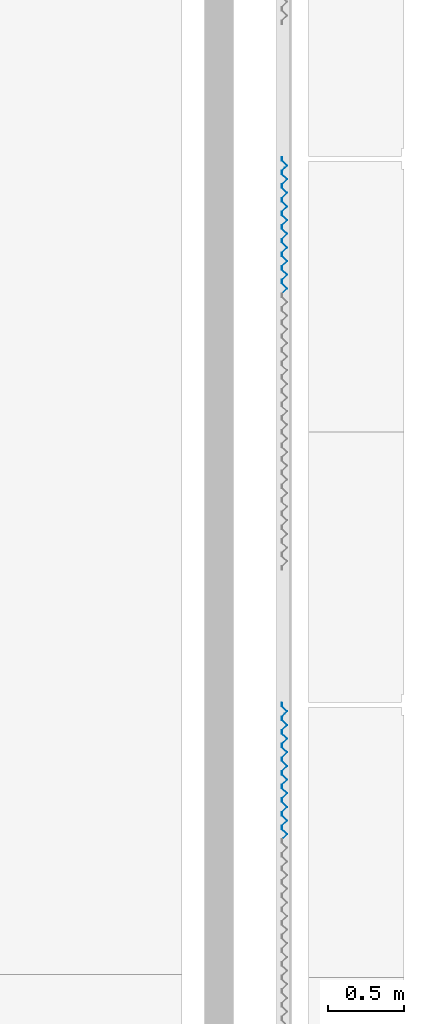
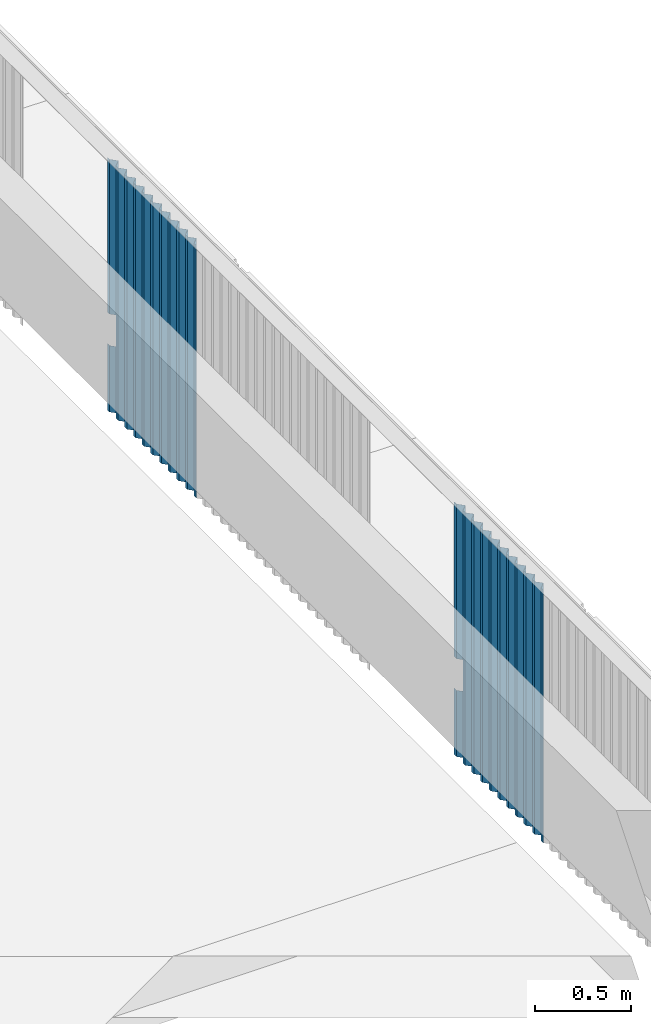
# One storey, part 28 of 37: 2 walls.
"""IFC4X3_ADD2 building model written with IfcOpenShell, lengths in millimetres."""

from ifc_helpers import new_model, si_unit, direction, frame, origin_with_axes, place, context, subcontext, project, spatial, polygons, element, save


model = new_model("IFC4X3_ADD2")

# Units and contexts
model_context = context("Model", 3, precision=1e-05, world=origin_with_axes(), true_north=direction((0.0, 1.0)))
body_context = subcontext(model_context, "Body", "Model", "MODEL_VIEW")
ifc_project = project(units=[si_unit("LENGTHUNIT", "METRE", prefix="MILLI"), si_unit("AREAUNIT", "SQUARE_METRE"), si_unit("VOLUMEUNIT", "CUBIC_METRE"), si_unit("PLANEANGLEUNIT", "RADIAN"), si_unit("TIMEUNIT", "SECOND"), si_unit("MASSUNIT", "GRAM")], contexts=[model_context])

# Site, building, storey
site_placement = place(None, origin_with_axes())
site = spatial("IfcSite", under=ifc_project, at=site_placement, Name="Site", CompositionType="ELEMENT")
building_placement = place(site_placement, origin_with_axes())
building = spatial("IfcBuilding", under=site, at=building_placement, Name="IFC Building Story")
storey_placement = place(building_placement, frame((0.0, 0.0, 14400.0), z_axis=(0.0, 0.0, 1.0), x_axis=(1.0, 0.0, 0.0)))
storey = spatial("IfcBuildingStorey", under=building, at=storey_placement, Name="040", Elevation=14400.0)

# Walls
wall_1_placement = place(storey_placement, frame((0.0, 0.0, -14400.0), z_axis=(0.0, 0.0, 1.0), x_axis=(1.0, 0.0, 0.0)))
element("IfcWall", 1, at=wall_1_placement, inside=storey, Name="BB_07.10_Gevelbekleding_PuntProfiel, 900 mm, console rechts_GMO:900 x 1600 mm", ObjectType="BB_07.10_Gevelbekleding_PuntProfiel, 900 mm, console rechts_GMO:900 x 1600 mm", PredefinedType="NOTDEFINED", context=body_context, shape_type="Tessellation", body=[
    polygons([(435.0000000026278, 21820.00000000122, 14060.0), (433.5857864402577, 21820.00000000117, 14060.0), (448.5857864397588, 21835.0000000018, 14060.0), (415.0000000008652, 21868.58578643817, 14060.0), (415.0000000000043, 21891.41421356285, 14060.0), (416.000000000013, 21891.00000000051, 14060.0), (416.0000000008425, 21869.00000000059, 14060.0), (450.0000000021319, 21835.00000000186, 14060.0), (435.0000000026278, 21820.00000000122, 13860.0), (433.5857864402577, 21820.00000000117, 13860.0), (450.0000000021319, 21835.00000000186, 13860.0), (416.0000000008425, 21869.00000000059, 13860.0), (416.0000000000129, 21891.00000000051, 13860.0), (415.0000000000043, 21891.41421356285, 13860.0), (415.0000000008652, 21868.58578643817, 13860.0), (448.5857864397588, 21835.0000000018, 13860.0), (416.0000000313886, 21059.00000000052, 15040.0), (416.000000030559, 21081.00000000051, 15040.0), (450.000000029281, 21115.00000000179, 15040.0), (416.0000000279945, 21149.00000000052, 15040.0), (416.0000000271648, 21171.00000000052, 15040.0), (450.0000000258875, 21205.0000000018, 15040.0), (416.0000000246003, 21239.00000000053, 15040.0), (416.0000000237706, 21261.00000000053, 15040.0), (450.0000000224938, 21295.00000000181, 15040.0), (416.0000000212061, 21329.00000000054, 15040.0), (416.0000000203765, 21351.00000000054, 15040.0), (450.0000000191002, 21385.00000000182, 15040.0), (416.0000000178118, 21419.00000000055, 15040.0), (416.0000000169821, 21441.00000000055, 15040.0), (450.0000000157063, 21475.00000000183, 15040.0), (416.0000000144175, 21509.00000000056, 15040.0), (416.0000000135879, 21531.00000000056, 15040.0), (450.0000000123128, 21565.00000000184, 15040.0), (416.0000000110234, 21599.00000000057, 15040.0), (416.0000000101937, 21621.00000000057, 15040.0), (450.0000000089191, 21655.00000000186, 15040.0), (416.0000000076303, 21689.00000000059, 15040.0), (416.0000000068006, 21711.00000000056, 15040.0), (450.0000000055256, 21745.00000000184, 15040.0), (416.0000000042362, 21779.00000000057, 15040.0), (416.0000000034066, 21801.00000000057, 15040.0), (450.000000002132, 21835.00000000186, 15040.0), (416.0000000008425, 21869.00000000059, 15040.0), (416.000000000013, 21891.00000000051, 15040.0), (415.0000000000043, 21891.41421356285, 15040.0), (415.0000000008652, 21868.58578643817, 15040.0), (448.5857864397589, 21835.0000000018, 15040.0), (415.0000000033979, 21801.41421356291, 15040.0), (415.0000000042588, 21778.58578643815, 15040.0), (448.5857864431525, 21745.00000000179, 15040.0), (415.0000000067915, 21711.4142135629, 15040.0), (415.0000000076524, 21688.58578643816, 15040.0), (448.5857864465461, 21655.0000000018, 15040.0), (415.0000000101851, 21621.41421356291, 15040.0), (415.000000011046, 21598.58578643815, 15040.0), (448.5857864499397, 21565.00000000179, 15040.0), (415.0000000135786, 21531.41421356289, 15040.0), (415.0000000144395, 21508.58578643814, 15040.0), (448.5857864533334, 21475.00000000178, 15040.0), (415.0000000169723, 21441.41421356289, 15040.0), (415.0000000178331, 21418.58578643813, 15040.0), (448.5857864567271, 21385.00000000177, 15040.0), (415.000000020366, 21351.41421356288, 15040.0), (415.0000000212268, 21328.58578643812, 15040.0), (448.5857864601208, 21295.00000000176, 15040.0), (415.0000000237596, 21261.41421356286, 15040.0), (415.0000000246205, 21238.58578643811, 15040.0), (448.5857864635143, 21205.00000000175, 15040.0), (415.0000000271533, 21171.41421356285, 15040.0), (415.000000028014, 21148.5857864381, 15040.0), (448.585786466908, 21115.00000000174, 15040.0), (415.0000000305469, 21081.41421356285, 15040.0), (415.0000000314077, 21058.5857864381, 15040.0), (448.5857864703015, 21025.00000000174, 15040.0), (415.0000000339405, 20991.41421356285, 15040.0), (415.0000000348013, 20968.5857864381, 15040.0), (416.0000000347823, 20969.00000000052, 15040.0), (416.0000000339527, 20991.00000000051, 15040.0), (450.0000000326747, 21025.00000000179, 15040.0), (416.0000000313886, 21059.00000000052, 13440.0), (450.0000000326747, 21025.00000000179, 13440.0), (416.0000000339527, 20991.00000000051, 13440.0), (416.0000000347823, 20969.00000000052, 13440.0), (415.0000000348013, 20968.5857864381, 13440.0), (415.0000000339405, 20991.41421356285, 13440.0), (448.5857864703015, 21025.00000000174, 13440.0), (415.0000000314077, 21058.5857864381, 13440.0), (415.0000000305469, 21081.41421356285, 13440.0), (448.585786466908, 21115.00000000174, 13440.0), (415.000000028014, 21148.5857864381, 13440.0), (415.0000000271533, 21171.41421356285, 13440.0), (448.5857864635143, 21205.00000000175, 13440.0), (415.0000000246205, 21238.58578643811, 13440.0), (415.0000000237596, 21261.41421356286, 13440.0), (448.5857864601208, 21295.00000000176, 13440.0), (415.0000000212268, 21328.58578643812, 13440.0), (415.000000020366, 21351.41421356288, 13440.0), (448.5857864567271, 21385.00000000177, 13440.0), (415.0000000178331, 21418.58578643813, 13440.0), (415.0000000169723, 21441.41421356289, 13440.0), (448.5857864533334, 21475.00000000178, 13440.0), (415.0000000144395, 21508.58578643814, 13440.0), (415.0000000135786, 21531.41421356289, 13440.0), (448.5857864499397, 21565.00000000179, 13440.0), (415.000000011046, 21598.58578643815, 13440.0), (415.0000000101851, 21621.41421356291, 13440.0), (448.5857864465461, 21655.0000000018, 13440.0), (415.0000000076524, 21688.58578643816, 13440.0), (415.0000000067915, 21711.4142135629, 13440.0), (448.5857864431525, 21745.00000000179, 13440.0), (415.0000000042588, 21778.58578643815, 13440.0), (415.0000000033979, 21801.41421356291, 13440.0), (448.5857864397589, 21835.0000000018, 13440.0), (415.0000000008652, 21868.58578643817, 13440.0), (415.0000000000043, 21891.41421356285, 13440.0), (416.000000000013, 21891.00000000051, 13440.0), (416.0000000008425, 21869.00000000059, 13440.0), (450.000000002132, 21835.00000000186, 13440.0), (416.0000000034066, 21801.00000000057, 13440.0), (416.0000000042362, 21779.00000000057, 13440.0), (450.0000000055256, 21745.00000000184, 13440.0), (416.0000000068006, 21711.00000000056, 13440.0), (416.0000000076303, 21689.00000000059, 13440.0), (450.0000000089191, 21655.00000000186, 13440.0), (416.0000000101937, 21621.00000000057, 13440.0), (416.0000000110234, 21599.00000000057, 13440.0), (450.0000000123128, 21565.00000000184, 13440.0), (416.0000000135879, 21531.00000000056, 13440.0), (416.0000000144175, 21509.00000000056, 13440.0), (450.0000000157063, 21475.00000000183, 13440.0), (416.0000000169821, 21441.00000000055, 13440.0), (416.0000000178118, 21419.00000000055, 13440.0), (450.0000000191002, 21385.00000000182, 13440.0), (416.0000000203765, 21351.00000000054, 13440.0), (416.0000000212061, 21329.00000000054, 13440.0), (450.0000000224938, 21295.00000000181, 13440.0), (416.0000000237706, 21261.00000000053, 13440.0), (416.0000000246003, 21239.00000000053, 13440.0), (450.0000000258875, 21205.0000000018, 13440.0), (416.0000000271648, 21171.00000000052, 13440.0), (416.0000000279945, 21149.00000000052, 13440.0), (450.000000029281, 21115.00000000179, 13440.0), (416.000000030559, 21081.00000000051, 13440.0)], [[[7, 8, 3]], [[7, 3, 4]], [[4, 5, 6]], [[4, 6, 7]], [[8, 1, 2]], [[8, 2, 3]], [[2, 1, 9, 10]], [[12, 13, 14]], [[12, 14, 15]], [[16, 10, 9]], [[16, 9, 11]], [[11, 12, 15]], [[11, 15, 16]], [[44, 45, 46]], [[44, 46, 47]], [[48, 49, 42]], [[48, 42, 43]], [[43, 44, 47]], [[43, 47, 48]], [[49, 50, 41]], [[49, 41, 42]], [[51, 52, 39]], [[51, 39, 40]], [[40, 41, 50]], [[40, 50, 51]], [[52, 53, 38]], [[52, 38, 39]], [[54, 55, 36]], [[54, 36, 37]], [[37, 38, 53]], [[37, 53, 54]], [[55, 56, 35]], [[55, 35, 36]], [[57, 58, 33]], [[57, 33, 34]], [[34, 35, 56]], [[34, 56, 57]], [[58, 59, 32]], [[58, 32, 33]], [[60, 61, 30]], [[60, 30, 31]], [[31, 32, 59]], [[31, 59, 60]], [[61, 62, 29]], [[61, 29, 30]], [[63, 64, 27]], [[63, 27, 28]], [[28, 29, 62]], [[28, 62, 63]], [[64, 65, 26]], [[64, 26, 27]], [[66, 67, 24]], [[66, 24, 25]], [[25, 26, 65]], [[25, 65, 66]], [[67, 68, 23]], [[67, 23, 24]], [[69, 70, 21]], [[69, 21, 22]], [[22, 23, 68]], [[22, 68, 69]], [[70, 71, 20]], [[70, 20, 21]], [[72, 73, 18]], [[72, 18, 19]], [[19, 20, 71]], [[19, 71, 72]], [[73, 74, 17]], [[73, 17, 18]], [[79, 80, 75]], [[79, 75, 76]], [[76, 77, 78]], [[76, 78, 79]], [[80, 17, 74]], [[80, 74, 75]], [[83, 84, 85]], [[83, 85, 86]], [[87, 88, 81]], [[87, 81, 82]], [[82, 83, 86]], [[82, 86, 87]], [[118, 119, 114]], [[118, 114, 115]], [[115, 116, 117]], [[115, 117, 118]], [[121, 122, 111]], [[121, 111, 112]], [[112, 113, 120]], [[112, 120, 121]], [[113, 114, 119]], [[113, 119, 120]], [[124, 125, 108]], [[124, 108, 109]], [[109, 110, 123]], [[109, 123, 124]], [[110, 111, 122]], [[110, 122, 123]], [[127, 128, 105]], [[127, 105, 106]], [[106, 107, 126]], [[106, 126, 127]], [[107, 108, 125]], [[107, 125, 126]], [[130, 131, 102]], [[130, 102, 103]], [[103, 104, 129]], [[103, 129, 130]], [[104, 105, 128]], [[104, 128, 129]], [[133, 134, 99]], [[133, 99, 100]], [[100, 101, 132]], [[100, 132, 133]], [[101, 102, 131]], [[101, 131, 132]], [[136, 137, 96]], [[136, 96, 97]], [[97, 98, 135]], [[97, 135, 136]], [[98, 99, 134]], [[98, 134, 135]], [[139, 140, 93]], [[139, 93, 94]], [[94, 95, 138]], [[94, 138, 139]], [[95, 96, 137]], [[95, 137, 138]], [[142, 143, 90]], [[142, 90, 91]], [[91, 92, 141]], [[91, 141, 142]], [[92, 93, 140]], [[92, 140, 141]], [[144, 81, 88]], [[144, 88, 89]], [[89, 90, 143]], [[89, 143, 144]], [[18, 17, 81, 144]], [[19, 18, 144, 143]], [[20, 19, 143, 142]], [[21, 20, 142, 141]], [[22, 21, 141, 140]], [[23, 22, 140, 139]], [[24, 23, 139, 138]], [[25, 24, 138, 137]], [[26, 25, 137, 136]], [[27, 26, 136, 135]], [[28, 27, 135, 134]], [[29, 28, 134, 133]], [[30, 29, 133, 132]], [[31, 30, 132, 131]], [[32, 31, 131, 130]], [[33, 32, 130, 129]], [[34, 33, 129, 128]], [[35, 34, 128, 127]], [[36, 35, 127, 126]], [[37, 36, 126, 125]], [[38, 37, 125, 124]], [[54, 53, 109, 108]], [[55, 54, 108, 107]], [[56, 55, 107, 106]], [[57, 56, 106, 105]], [[58, 57, 105, 104]], [[59, 58, 104, 103]], [[60, 59, 103, 102]], [[61, 60, 102, 101]], [[62, 61, 101, 100]], [[63, 62, 100, 99]], [[64, 63, 99, 98]], [[65, 64, 98, 97]], [[66, 65, 97, 96]], [[67, 66, 96, 95]], [[68, 67, 95, 94]], [[69, 68, 94, 93]], [[70, 69, 93, 92]], [[71, 70, 92, 91]], [[72, 71, 91, 90]], [[73, 72, 90, 89]], [[74, 73, 89, 88]], [[80, 79, 83, 82]], [[17, 80, 82, 81]], [[39, 38, 124, 123]], [[40, 39, 123, 122]], [[41, 40, 122, 121]], [[42, 41, 121, 120]], [[1, 8, 43]], [[1, 43, 42]], [[42, 9, 1]], [[42, 120, 9]], [[120, 119, 11]], [[120, 11, 9]], [[44, 43, 8, 7]], [[45, 44, 7, 6]], [[47, 46, 5, 4]], [[48, 47, 4, 3]], [[10, 16, 114]], [[10, 114, 113]], [[113, 2, 10]], [[2, 113, 49]], [[49, 48, 2]], [[48, 3, 2]], [[50, 49, 113, 112]], [[51, 50, 112, 111]], [[52, 51, 111, 110]], [[53, 52, 110, 109]], [[75, 74, 88, 87]], [[76, 75, 87, 86]], [[46, 45, 6, 5]], [[77, 76, 86, 85]], [[78, 77, 85, 84]], [[79, 78, 84, 83]], [[117, 116, 14, 13]], [[115, 114, 16, 15]], [[116, 115, 15, 14]], [[118, 117, 13, 12]], [[119, 118, 12, 11]]]),
])
wall_2_placement = place(storey_placement, frame((0.0, 0.0, -14400.0), z_axis=(0.0, 0.0, 1.0), x_axis=(1.0, 0.0, 0.0)))
element("IfcWall", 2, at=wall_2_placement, inside=storey, Name="BB_07.10_Gevelbekleding_PuntProfiel, 900 mm, console rechts_GMO:900 x 1600 mm", ObjectType="BB_07.10_Gevelbekleding_PuntProfiel, 900 mm, console rechts_GMO:900 x 1600 mm", PredefinedType="NOTDEFINED", context=body_context, shape_type="Tessellation", body=[
    polygons([(435.0000000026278, 25420.00000000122, 14060.0), (433.5857864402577, 25420.00000000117, 14060.0), (448.5857864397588, 25435.0000000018, 14060.0), (415.0000000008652, 25468.58578643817, 14060.0), (415.0000000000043, 25491.41421356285, 14060.0), (416.000000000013, 25491.00000000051, 14060.0), (416.0000000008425, 25469.00000000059, 14060.0), (450.0000000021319, 25435.00000000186, 14060.0), (435.0000000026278, 25420.00000000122, 13860.0), (433.5857864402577, 25420.00000000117, 13860.0), (450.0000000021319, 25435.00000000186, 13860.0), (416.0000000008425, 25469.00000000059, 13860.0), (416.0000000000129, 25491.00000000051, 13860.0), (415.0000000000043, 25491.41421356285, 13860.0), (415.0000000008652, 25468.58578643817, 13860.0), (448.5857864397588, 25435.0000000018, 13860.0), (416.0000000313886, 24659.00000000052, 15040.0), (416.000000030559, 24681.00000000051, 15040.0), (450.000000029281, 24715.00000000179, 15040.0), (416.0000000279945, 24749.00000000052, 15040.0), (416.0000000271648, 24771.00000000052, 15040.0), (450.0000000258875, 24805.0000000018, 15040.0), (416.0000000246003, 24839.00000000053, 15040.0), (416.0000000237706, 24861.00000000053, 15040.0), (450.0000000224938, 24895.00000000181, 15040.0), (416.0000000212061, 24929.00000000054, 15040.0), (416.0000000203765, 24951.00000000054, 15040.0), (450.0000000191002, 24985.00000000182, 15040.0), (416.0000000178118, 25019.00000000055, 15040.0), (416.0000000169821, 25041.00000000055, 15040.0), (450.0000000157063, 25075.00000000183, 15040.0), (416.0000000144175, 25109.00000000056, 15040.0), (416.0000000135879, 25131.00000000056, 15040.0), (450.0000000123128, 25165.00000000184, 15040.0), (416.0000000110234, 25199.00000000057, 15040.0), (416.0000000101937, 25221.00000000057, 15040.0), (450.0000000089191, 25255.00000000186, 15040.0), (416.0000000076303, 25289.00000000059, 15040.0), (416.0000000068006, 25311.00000000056, 15040.0), (450.0000000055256, 25345.00000000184, 15040.0), (416.0000000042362, 25379.00000000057, 15040.0), (416.0000000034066, 25401.00000000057, 15040.0), (450.000000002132, 25435.00000000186, 15040.0), (416.0000000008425, 25469.00000000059, 15040.0), (416.000000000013, 25491.00000000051, 15040.0), (415.0000000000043, 25491.41421356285, 15040.0), (415.0000000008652, 25468.58578643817, 15040.0), (448.5857864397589, 25435.0000000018, 15040.0), (415.0000000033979, 25401.41421356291, 15040.0), (415.0000000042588, 25378.58578643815, 15040.0), (448.5857864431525, 25345.00000000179, 15040.0), (415.0000000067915, 25311.4142135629, 15040.0), (415.0000000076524, 25288.58578643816, 15040.0), (448.5857864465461, 25255.0000000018, 15040.0), (415.0000000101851, 25221.41421356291, 15040.0), (415.000000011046, 25198.58578643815, 15040.0), (448.5857864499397, 25165.00000000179, 15040.0), (415.0000000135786, 25131.41421356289, 15040.0), (415.0000000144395, 25108.58578643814, 15040.0), (448.5857864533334, 25075.00000000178, 15040.0), (415.0000000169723, 25041.41421356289, 15040.0), (415.0000000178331, 25018.58578643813, 15040.0), (448.5857864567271, 24985.00000000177, 15040.0), (415.000000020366, 24951.41421356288, 15040.0), (415.0000000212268, 24928.58578643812, 15040.0), (448.5857864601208, 24895.00000000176, 15040.0), (415.0000000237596, 24861.41421356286, 15040.0), (415.0000000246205, 24838.58578643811, 15040.0), (448.5857864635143, 24805.00000000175, 15040.0), (415.0000000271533, 24771.41421356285, 15040.0), (415.000000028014, 24748.5857864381, 15040.0), (448.585786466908, 24715.00000000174, 15040.0), (415.0000000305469, 24681.41421356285, 15040.0), (415.0000000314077, 24658.5857864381, 15040.0), (448.5857864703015, 24625.00000000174, 15040.0), (415.0000000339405, 24591.41421356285, 15040.0), (415.0000000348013, 24568.5857864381, 15040.0), (416.0000000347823, 24569.00000000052, 15040.0), (416.0000000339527, 24591.00000000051, 15040.0), (450.0000000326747, 24625.00000000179, 15040.0), (416.0000000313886, 24659.00000000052, 13440.0), (450.0000000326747, 24625.00000000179, 13440.0), (416.0000000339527, 24591.00000000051, 13440.0), (416.0000000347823, 24569.00000000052, 13440.0), (415.0000000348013, 24568.5857864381, 13440.0), (415.0000000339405, 24591.41421356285, 13440.0), (448.5857864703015, 24625.00000000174, 13440.0), (415.0000000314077, 24658.5857864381, 13440.0), (415.0000000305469, 24681.41421356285, 13440.0), (448.585786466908, 24715.00000000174, 13440.0), (415.000000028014, 24748.5857864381, 13440.0), (415.0000000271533, 24771.41421356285, 13440.0), (448.5857864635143, 24805.00000000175, 13440.0), (415.0000000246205, 24838.58578643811, 13440.0), (415.0000000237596, 24861.41421356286, 13440.0), (448.5857864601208, 24895.00000000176, 13440.0), (415.0000000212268, 24928.58578643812, 13440.0), (415.000000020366, 24951.41421356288, 13440.0), (448.5857864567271, 24985.00000000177, 13440.0), (415.0000000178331, 25018.58578643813, 13440.0), (415.0000000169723, 25041.41421356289, 13440.0), (448.5857864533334, 25075.00000000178, 13440.0), (415.0000000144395, 25108.58578643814, 13440.0), (415.0000000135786, 25131.41421356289, 13440.0), (448.5857864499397, 25165.00000000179, 13440.0), (415.000000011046, 25198.58578643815, 13440.0), (415.0000000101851, 25221.41421356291, 13440.0), (448.5857864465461, 25255.0000000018, 13440.0), (415.0000000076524, 25288.58578643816, 13440.0), (415.0000000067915, 25311.4142135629, 13440.0), (448.5857864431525, 25345.00000000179, 13440.0), (415.0000000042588, 25378.58578643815, 13440.0), (415.0000000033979, 25401.41421356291, 13440.0), (448.5857864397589, 25435.0000000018, 13440.0), (415.0000000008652, 25468.58578643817, 13440.0), (415.0000000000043, 25491.41421356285, 13440.0), (416.000000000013, 25491.00000000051, 13440.0), (416.0000000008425, 25469.00000000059, 13440.0), (450.000000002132, 25435.00000000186, 13440.0), (416.0000000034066, 25401.00000000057, 13440.0), (416.0000000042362, 25379.00000000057, 13440.0), (450.0000000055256, 25345.00000000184, 13440.0), (416.0000000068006, 25311.00000000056, 13440.0), (416.0000000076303, 25289.00000000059, 13440.0), (450.0000000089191, 25255.00000000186, 13440.0), (416.0000000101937, 25221.00000000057, 13440.0), (416.0000000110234, 25199.00000000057, 13440.0), (450.0000000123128, 25165.00000000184, 13440.0), (416.0000000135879, 25131.00000000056, 13440.0), (416.0000000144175, 25109.00000000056, 13440.0), (450.0000000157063, 25075.00000000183, 13440.0), (416.0000000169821, 25041.00000000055, 13440.0), (416.0000000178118, 25019.00000000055, 13440.0), (450.0000000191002, 24985.00000000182, 13440.0), (416.0000000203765, 24951.00000000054, 13440.0), (416.0000000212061, 24929.00000000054, 13440.0), (450.0000000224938, 24895.00000000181, 13440.0), (416.0000000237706, 24861.00000000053, 13440.0), (416.0000000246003, 24839.00000000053, 13440.0), (450.0000000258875, 24805.0000000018, 13440.0), (416.0000000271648, 24771.00000000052, 13440.0), (416.0000000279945, 24749.00000000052, 13440.0), (450.000000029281, 24715.00000000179, 13440.0), (416.000000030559, 24681.00000000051, 13440.0)], [[[7, 8, 3]], [[7, 3, 4]], [[4, 5, 6]], [[4, 6, 7]], [[8, 1, 2]], [[8, 2, 3]], [[2, 1, 9, 10]], [[12, 13, 14]], [[12, 14, 15]], [[16, 10, 9]], [[16, 9, 11]], [[11, 12, 15]], [[11, 15, 16]], [[44, 45, 46]], [[44, 46, 47]], [[48, 49, 42]], [[48, 42, 43]], [[43, 44, 47]], [[43, 47, 48]], [[49, 50, 41]], [[49, 41, 42]], [[51, 52, 39]], [[51, 39, 40]], [[40, 41, 50]], [[40, 50, 51]], [[52, 53, 38]], [[52, 38, 39]], [[54, 55, 36]], [[54, 36, 37]], [[37, 38, 53]], [[37, 53, 54]], [[55, 56, 35]], [[55, 35, 36]], [[57, 58, 33]], [[57, 33, 34]], [[34, 35, 56]], [[34, 56, 57]], [[58, 59, 32]], [[58, 32, 33]], [[60, 61, 30]], [[60, 30, 31]], [[31, 32, 59]], [[31, 59, 60]], [[61, 62, 29]], [[61, 29, 30]], [[63, 64, 27]], [[63, 27, 28]], [[28, 29, 62]], [[28, 62, 63]], [[64, 65, 26]], [[64, 26, 27]], [[66, 67, 24]], [[66, 24, 25]], [[25, 26, 65]], [[25, 65, 66]], [[67, 68, 23]], [[67, 23, 24]], [[69, 70, 21]], [[69, 21, 22]], [[22, 23, 68]], [[22, 68, 69]], [[70, 71, 20]], [[70, 20, 21]], [[72, 73, 18]], [[72, 18, 19]], [[19, 20, 71]], [[19, 71, 72]], [[73, 74, 17]], [[73, 17, 18]], [[79, 80, 75]], [[79, 75, 76]], [[76, 77, 78]], [[76, 78, 79]], [[80, 17, 74]], [[80, 74, 75]], [[83, 84, 85]], [[83, 85, 86]], [[87, 88, 81]], [[87, 81, 82]], [[82, 83, 86]], [[82, 86, 87]], [[118, 119, 114]], [[118, 114, 115]], [[115, 116, 117]], [[115, 117, 118]], [[121, 122, 111]], [[121, 111, 112]], [[112, 113, 120]], [[112, 120, 121]], [[113, 114, 119]], [[113, 119, 120]], [[124, 125, 108]], [[124, 108, 109]], [[109, 110, 123]], [[109, 123, 124]], [[110, 111, 122]], [[110, 122, 123]], [[127, 128, 105]], [[127, 105, 106]], [[106, 107, 126]], [[106, 126, 127]], [[107, 108, 125]], [[107, 125, 126]], [[130, 131, 102]], [[130, 102, 103]], [[103, 104, 129]], [[103, 129, 130]], [[104, 105, 128]], [[104, 128, 129]], [[133, 134, 99]], [[133, 99, 100]], [[100, 101, 132]], [[100, 132, 133]], [[101, 102, 131]], [[101, 131, 132]], [[136, 137, 96]], [[136, 96, 97]], [[97, 98, 135]], [[97, 135, 136]], [[98, 99, 134]], [[98, 134, 135]], [[139, 140, 93]], [[139, 93, 94]], [[94, 95, 138]], [[94, 138, 139]], [[95, 96, 137]], [[95, 137, 138]], [[142, 143, 90]], [[142, 90, 91]], [[91, 92, 141]], [[91, 141, 142]], [[92, 93, 140]], [[92, 140, 141]], [[144, 81, 88]], [[144, 88, 89]], [[89, 90, 143]], [[89, 143, 144]], [[18, 17, 81, 144]], [[19, 18, 144, 143]], [[20, 19, 143, 142]], [[21, 20, 142, 141]], [[22, 21, 141, 140]], [[23, 22, 140, 139]], [[24, 23, 139, 138]], [[25, 24, 138, 137]], [[26, 25, 137, 136]], [[27, 26, 136, 135]], [[28, 27, 135, 134]], [[29, 28, 134, 133]], [[30, 29, 133, 132]], [[31, 30, 132, 131]], [[32, 31, 131, 130]], [[33, 32, 130, 129]], [[34, 33, 129, 128]], [[35, 34, 128, 127]], [[36, 35, 127, 126]], [[37, 36, 126, 125]], [[38, 37, 125, 124]], [[54, 53, 109, 108]], [[55, 54, 108, 107]], [[56, 55, 107, 106]], [[57, 56, 106, 105]], [[58, 57, 105, 104]], [[59, 58, 104, 103]], [[60, 59, 103, 102]], [[61, 60, 102, 101]], [[62, 61, 101, 100]], [[63, 62, 100, 99]], [[64, 63, 99, 98]], [[65, 64, 98, 97]], [[66, 65, 97, 96]], [[67, 66, 96, 95]], [[68, 67, 95, 94]], [[69, 68, 94, 93]], [[70, 69, 93, 92]], [[71, 70, 92, 91]], [[72, 71, 91, 90]], [[73, 72, 90, 89]], [[74, 73, 89, 88]], [[80, 79, 83, 82]], [[17, 80, 82, 81]], [[39, 38, 124, 123]], [[40, 39, 123, 122]], [[41, 40, 122, 121]], [[42, 41, 121, 120]], [[1, 8, 43]], [[1, 43, 42]], [[42, 9, 1]], [[42, 120, 9]], [[120, 119, 11]], [[120, 11, 9]], [[44, 43, 8, 7]], [[45, 44, 7, 6]], [[47, 46, 5, 4]], [[48, 47, 4, 3]], [[10, 16, 114]], [[10, 114, 113]], [[113, 2, 10]], [[2, 113, 49]], [[49, 48, 2]], [[48, 3, 2]], [[50, 49, 113, 112]], [[51, 50, 112, 111]], [[52, 51, 111, 110]], [[53, 52, 110, 109]], [[75, 74, 88, 87]], [[76, 75, 87, 86]], [[46, 45, 6, 5]], [[77, 76, 86, 85]], [[78, 77, 85, 84]], [[79, 78, 84, 83]], [[117, 116, 14, 13]], [[115, 114, 16, 15]], [[116, 115, 15, 14]], [[118, 117, 13, 12]], [[119, 118, 12, 11]]]),
])

save(model, "model.ifc")
